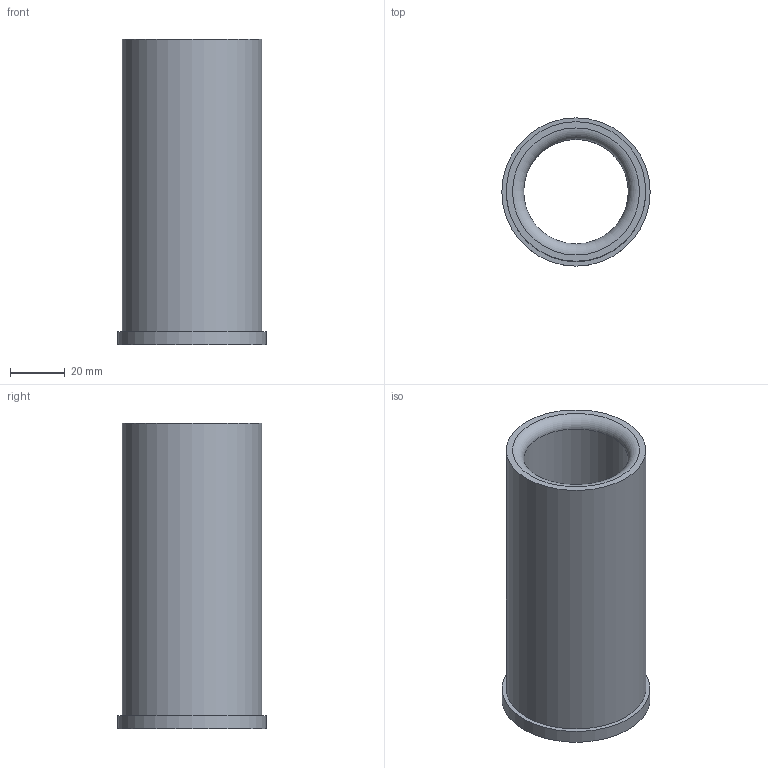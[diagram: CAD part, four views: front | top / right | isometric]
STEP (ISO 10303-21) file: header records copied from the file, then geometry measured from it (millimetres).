
FILE_DESCRIPTION (( 'STEP AP214' ), '1' );
FILE_NAME ('BU-507.STEP', '2023-06-28T12:03:23', ( '' ), ( '' ), 'SwSTEP 2.0', 'SolidWorks 2017', '' );
FILE_SCHEMA (( 'AUTOMOTIVE_DESIGN' ));
Length unit declared in the file: inch
Products named in the file (1): BU-507
Bounding box: 53.98 x 53.98 x 111.12 mm (x, y, z)
Volume: 97636.7 mm3; surface area: 33136.4 mm2
Topology: 1 solids, 1 shells, 10 faces, 17 edges, 10 vertices
Faces by surface type: cylinder 4, plane 3, torus 2, cone 1
Full cylindrical faces by diameter (mm): 38.113 x1, 38.862 x1, 50.813 x1, 53.975 x1
Entity records: 248 total; most frequent: DIRECTION 42, CARTESIAN_POINT 31, AXIS2_PLACEMENT_3D 21, ORIENTED_EDGE 20, EDGE_LOOP 20, FACE_OUTER_BOUND 16, EDGE_CURVE 10, CIRCLE 10
